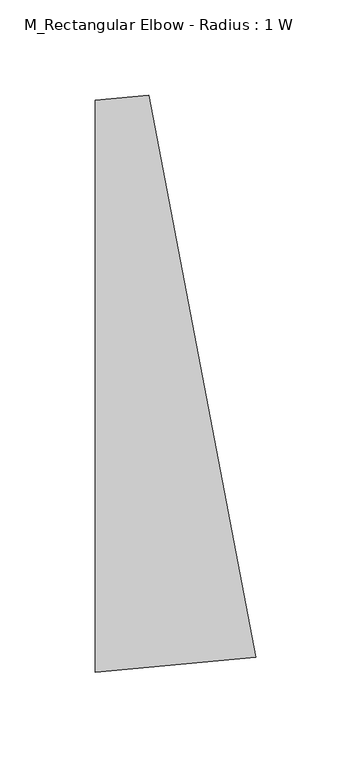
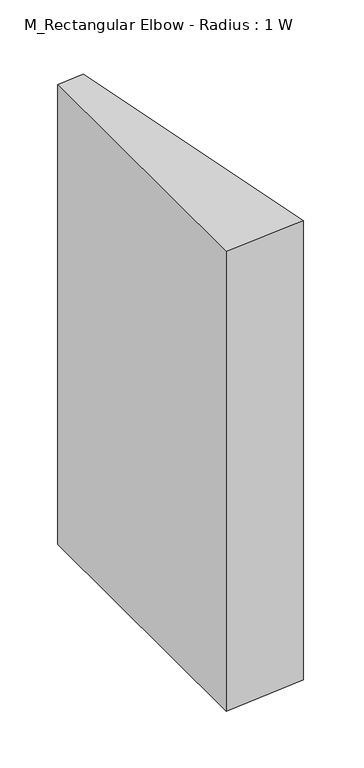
"""IFC4 building model written with IfcOpenShell, lengths in millimetres: duct fitting geometry, M_Rectangular Elbow - Radius : 1 W."""

from ifc_helpers import new_model, si_unit, point, frame, frame_2d, origin, place, context, project, spatial, polyline, circle_curve, trimmed, segment, composite_curve, outline, extrude, source, transform, mapped, element, save


def m_rectangular_elbow_radius_1_w_1a1d0e92(model_context):
    return source(origin(), model_context, "Body", "SweptSolid", [
        extrude(outline(composite_curve([segment(trimmed(circle_curve(frame_2d((-28.2659392, 300.0)), 450.0), [point((55.7857208, -142.0806696))], [point((-28.2659392, -150.0))], False, "CARTESIAN"), True, "CONTINUOUS"), segment(polyline([(-28.2659392, -150.0), (-28.2659392, 150.0)]), True, "CONTINUOUS"), segment(trimmed(circle_curve(frame_2d((-28.2659392, 300.0)), 150.0), [point((-28.2659392, 150.0))], [point((-0.2487192, 152.6397768))], True, "CARTESIAN"), True, "CONTINUOUS"), segment(polyline([(-0.2487192, 152.6397768), (55.7857208, -142.0806696)]), True, "CONTINUOUS")], self_intersect=False)), frame((0.0, 0.0, -250.0), z_axis=(0.0, 0.0, 1.0), x_axis=(1.0, 0.0, 0.0)), (0.0, 0.0, 1.0), 500.0),
    ])


if __name__ == "__main__":
    model = new_model("IFC4")
    model_context = context("Model", 3, world=origin())
    ifc_project = project(units=[si_unit("LENGTHUNIT", "METRE", prefix="MILLI")], contexts=[model_context])
    site = spatial("IfcSite", under=ifc_project)
    building = spatial("IfcBuilding", under=site)
    placement = place(None, origin())
    m_rectangular_elbow_radius_1_w_shape = m_rectangular_elbow_radius_1_w_1a1d0e92(model_context)
    element("IfcDuctFitting", 1, ObjectType="M_Rectangular Elbow - Radius : 1 W", at=placement, inside=building, context=model_context, shape_type="MappedRepresentation", body=[
        mapped(m_rectangular_elbow_radius_1_w_shape, transform((0.0, 0.0, 0.0), x_axis=(1.0, 0.0, 0.0), y_axis=(0.0, 1.0, 0.0), z_axis=(0.0, 0.0, 1.0))),
    ])
    save(model, "model.ifc")
